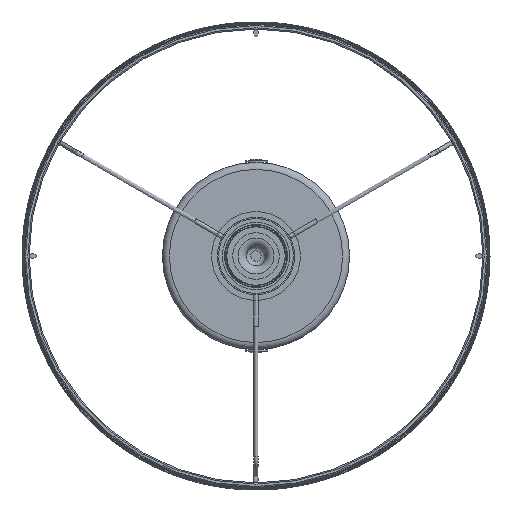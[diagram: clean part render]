
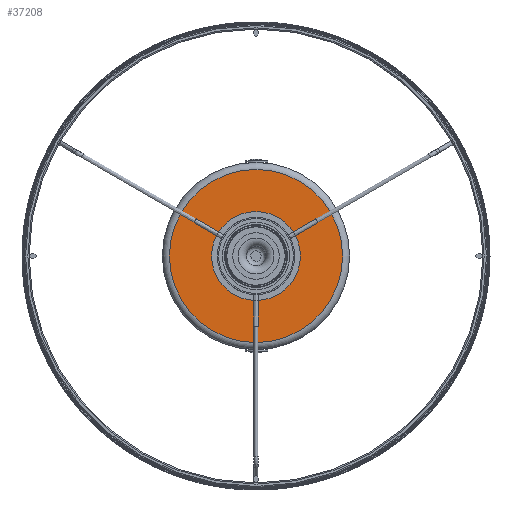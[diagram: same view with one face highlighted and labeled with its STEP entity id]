
A CAD part, front view. The second image highlights one B-rep face of the part: STEP entity #37208.
In plain terms, the highlighted planar face has unit normal (0, -1, 0).
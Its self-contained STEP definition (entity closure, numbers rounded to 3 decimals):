
#3904=PLANE('',#40998);
#6149=FACE_OUTER_BOUND('',#8455,.T.);
#8455=EDGE_LOOP('',(#34152));
#13996=CIRCLE('',#40992,37.);
#17673=VERTEX_POINT('',#136246);
#23167=EDGE_CURVE('',#17673,#17673,#13996,.T.);
#34152=ORIENTED_EDGE('',*,*,#23167,.F.);
#37208=ADVANCED_FACE('',(#6149),#3904,.T.);
#40992=AXIS2_PLACEMENT_3D('',#136247,#50027,#50028);
#40998=AXIS2_PLACEMENT_3D('',#136257,#50040,#50041);
#50027=DIRECTION('center_axis',(0.,1.,0.));
#50028=DIRECTION('ref_axis',(1.,0.,0.));
#50040=DIRECTION('center_axis',(0.,-1.,0.));
#50041=DIRECTION('ref_axis',(1.,0.,0.));
#136246=CARTESIAN_POINT('',(0.,1575.,37.));
#136247=CARTESIAN_POINT('Origin',(0.,1575.,0.));
#136257=CARTESIAN_POINT('Origin',(0.,1575.,0.));
